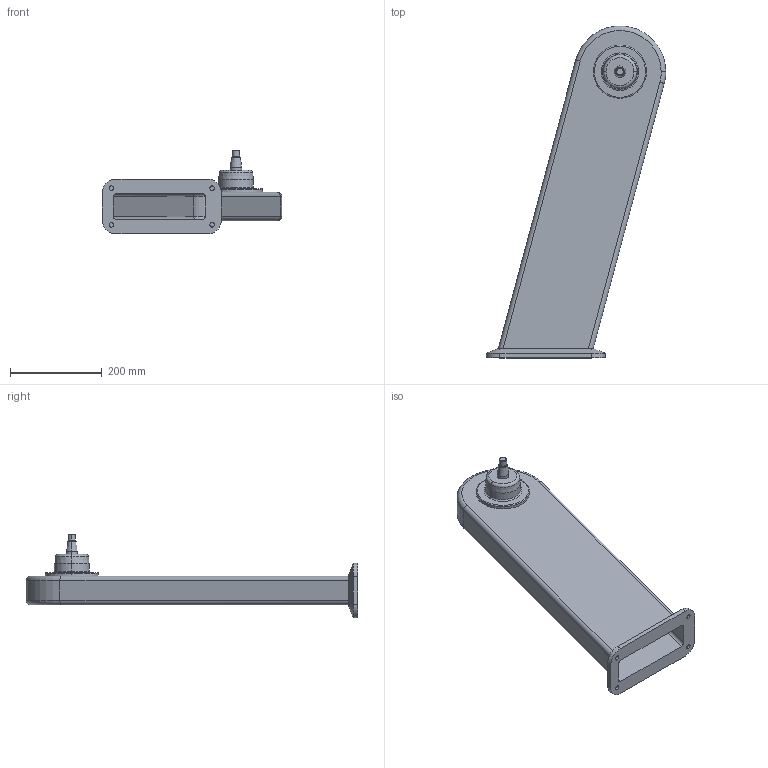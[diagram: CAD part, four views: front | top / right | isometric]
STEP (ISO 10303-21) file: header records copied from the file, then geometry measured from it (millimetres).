
FILE_DESCRIPTION (( 'STEP AP214' ), '1' );
FILE_NAME ('WP800_H625_+15.STEP', '2014-06-26T12:18:08', ( '' ), ( '' ), 'SwSTEP 2.0', 'SolidWorks 2014', '' );
FILE_SCHEMA (( 'AUTOMOTIVE_DESIGN' ));
Length unit declared in the file: millimetre
Products named in the file (1): WP800_H625_+15
Bounding box: 392.11 x 724.89 x 183.29 mm (x, y, z)
Volume: 1674791.3 mm3; surface area: 791214 mm2
Topology: 1 solids, 1 shells, 92 faces, 202 edges, 122 vertices
Faces by surface type: cylinder 36, plane 26, cone 16, torus 14
Entity records: 2564 total; most frequent: DIRECTION 484, CARTESIAN_POINT 441, ORIENTED_EDGE 404, EDGE_CURVE 202, AXIS2_PLACEMENT_3D 197, VERTEX_POINT 122, EDGE_LOOP 104, CIRCLE 104
